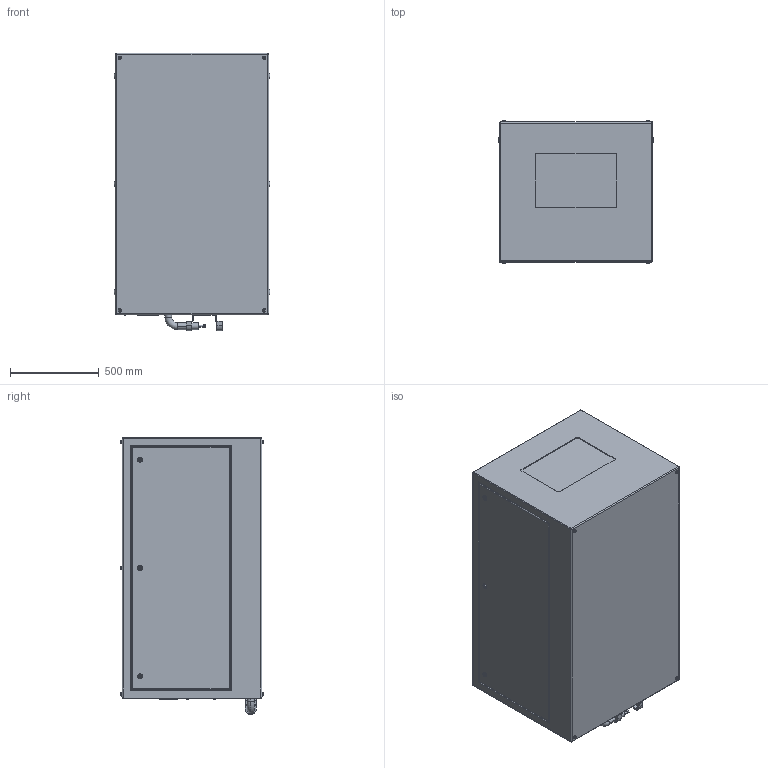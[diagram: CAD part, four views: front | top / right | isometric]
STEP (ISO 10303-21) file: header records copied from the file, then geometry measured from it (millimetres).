
FILE_DESCRIPTION (( 'STEP AP214' ), '1' );
FILE_NAME ('Oasis 59.310.L R02.STEP', '2022-08-27T16:08:01', ( '' ), ( '' ), 'SwSTEP 2.0', 'SolidWorks 2020', '' );
FILE_SCHEMA (( 'AUTOMOTIVE_DESIGN' ));
Length unit declared in the file: inch
Products named in the file (1): Oasis 59.310.L R02
Bounding box: 876.3 x 804.67 x 1562.1 mm (x, y, z)
Volume: 1000719393.3 mm3; surface area: 6691704 mm2
Topology: 2 solids, 8 shells, 495 faces, 1131 edges, 716 vertices
Faces by surface type: plane 271, cylinder 170, torus 46, bspline 8
Entity records: 18948 total; most frequent: CARTESIAN_POINT 2855, DIRECTION 2463, ORIENTED_EDGE 2246, EDGE_CURVE 1123, AXIS2_PLACEMENT_3D 884, VERTEX_POINT 716, VECTOR 695, LINE 695
